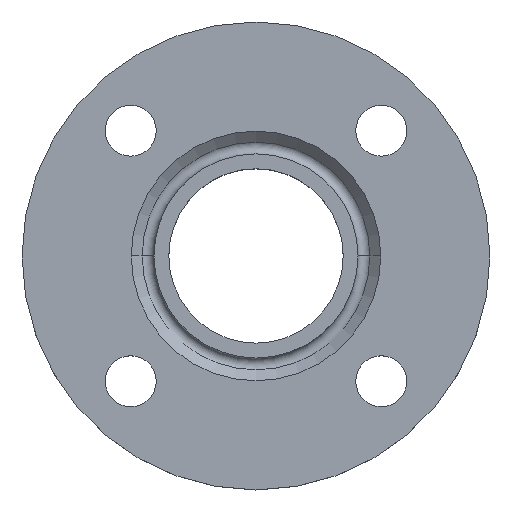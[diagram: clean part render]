
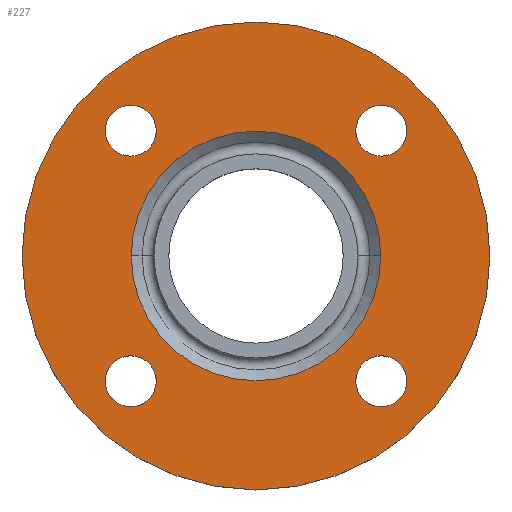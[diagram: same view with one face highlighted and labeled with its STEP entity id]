
A CAD part, top view. The second image highlights one B-rep face of the part: STEP entity #227.
In plain terms, the highlighted planar face has unit normal (0, 0, 1).
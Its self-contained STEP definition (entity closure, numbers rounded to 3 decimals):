
#6 = EDGE_CURVE ( 'NONE', #449, #467, #570, .T. ) ;
#11 = DIRECTION ( 'NONE',  ( 1., 0., 0. ) ) ;
#12 = DIRECTION ( 'NONE',  ( 0., 0., -1. ) ) ;
#13 = CARTESIAN_POINT ( 'NONE',  ( 44.194, 44.194, -2. ) ) ;
#32 = DIRECTION ( 'NONE',  ( 0., 0., -1. ) ) ;
#41 = EDGE_CURVE ( 'NONE', #459, #660, #385, .T. ) ;
#42 = AXIS2_PLACEMENT_3D ( 'NONE', #13, #12, #11 ) ;
#46 = CIRCLE ( 'NONE', #42, 9. ) ;
#67 = CARTESIAN_POINT ( 'NONE',  ( 0., 0., -2. ) ) ;
#72 = EDGE_CURVE ( 'NONE', #491, #461, #373, .T. ) ;
#92 = CARTESIAN_POINT ( 'NONE',  ( -53.194, -44.194, -2. ) ) ;
#93 = CARTESIAN_POINT ( 'NONE',  ( 53.194, 44.194, -2. ) ) ;
#95 = CARTESIAN_POINT ( 'NONE',  ( 35.194, -44.194, -2. ) ) ;
#97 = CARTESIAN_POINT ( 'NONE',  ( 44.194, -44.194, -2. ) ) ;
#102 = CARTESIAN_POINT ( 'NONE',  ( -82.5, 0., -2. ) ) ;
#109 = CARTESIAN_POINT ( 'NONE',  ( 82.5, 0., -2. ) ) ;
#116 = DIRECTION ( 'NONE',  ( 0., 0., -1. ) ) ;
#147 = CARTESIAN_POINT ( 'NONE',  ( 44., 0., -2. ) ) ;
#153 = DIRECTION ( 'NONE',  ( 1., 0., 0. ) ) ;
#170 = CARTESIAN_POINT ( 'NONE',  ( 53.194, -44.194, -2. ) ) ;
#173 = CIRCLE ( 'NONE', #221, 9. ) ;
#175 = CARTESIAN_POINT ( 'NONE',  ( 44.194, -44.194, -2. ) ) ;
#181 = AXIS2_PLACEMENT_3D ( 'NONE', #67, #32, #202 ) ;
#183 = DIRECTION ( 'NONE',  ( 1., 0., 0. ) ) ;
#202 = DIRECTION ( 'NONE',  ( -1., 0., 0. ) ) ;
#218 = CARTESIAN_POINT ( 'NONE',  ( -35.194, -44.194, -2. ) ) ;
#221 = AXIS2_PLACEMENT_3D ( 'NONE', #367, #116, #239 ) ;
#227 = ADVANCED_FACE ( 'NONE', ( #789, #790, #791, #792, #793, #794 ), #795, .T. ) ;
#239 = DIRECTION ( 'NONE',  ( 1., 0., 0. ) ) ;
#253 = AXIS2_PLACEMENT_3D ( 'NONE', #301, #302, #303 ) ;
#282 = CIRCLE ( 'NONE', #287, 9. ) ;
#284 = EDGE_CURVE ( 'NONE', #467, #449, #173, .T. ) ;
#287 = AXIS2_PLACEMENT_3D ( 'NONE', #304, #305, #307 ) ;
#301 = CARTESIAN_POINT ( 'NONE',  ( 0., 0., -2. ) ) ;
#302 = DIRECTION ( 'NONE',  ( 0., 0., -1. ) ) ;
#303 = DIRECTION ( 'NONE',  ( -1., 0., 0. ) ) ;
#304 = CARTESIAN_POINT ( 'NONE',  ( -44.194, -44.194, -2. ) ) ;
#305 = DIRECTION ( 'NONE',  ( 0., 0., -1. ) ) ;
#307 = DIRECTION ( 'NONE',  ( 1., 0., 0. ) ) ;
#310 = CARTESIAN_POINT ( 'NONE',  ( -44.194, -44.194, -2. ) ) ;
#315 = DIRECTION ( 'NONE',  ( 0., 0., -1. ) ) ;
#316 = DIRECTION ( 'NONE',  ( 1., 0., 0. ) ) ;
#317 = CARTESIAN_POINT ( 'NONE',  ( 0., 0., -2. ) ) ;
#318 = DIRECTION ( 'NONE',  ( 0., 0., -1. ) ) ;
#319 = DIRECTION ( 'NONE',  ( -1., 0., 0. ) ) ;
#326 = DIRECTION ( 'NONE',  ( 0., 0., -1. ) ) ;
#336 = AXIS2_PLACEMENT_3D ( 'NONE', #722, #723, #724 ) ;
#341 = CARTESIAN_POINT ( 'NONE',  ( -35.194, 44.194, -2. ) ) ;
#357 = DIRECTION ( 'NONE',  ( 0., 0., -1. ) ) ;
#361 = CARTESIAN_POINT ( 'NONE',  ( -53.194, 44.194, -2. ) ) ;
#362 = CARTESIAN_POINT ( 'NONE',  ( 35.194, 44.194, -2. ) ) ;
#364 = CARTESIAN_POINT ( 'NONE',  ( -44., 0., -2. ) ) ;
#367 = CARTESIAN_POINT ( 'NONE',  ( -44.194, 44.194, -2. ) ) ;
#369 = CIRCLE ( 'NONE', #495, 9. ) ;
#372 = AXIS2_PLACEMENT_3D ( 'NONE', #796, #797, #798 ) ;
#373 = CIRCLE ( 'NONE', #391, 44. ) ;
#382 = EDGE_CURVE ( 'NONE', #611, #650, #553, .T. ) ;
#383 = EDGE_CURVE ( 'NONE', #661, #462, #282, .T. ) ;
#385 = CIRCLE ( 'NONE', #336, 9. ) ;
#389 = EDGE_CURVE ( 'NONE', #462, #661, #541, .T. ) ;
#391 = AXIS2_PLACEMENT_3D ( 'NONE', #726, #730, #732 ) ;
#392 = EDGE_CURVE ( 'NONE', #461, #491, #527, .T. ) ;
#404 = CIRCLE ( 'NONE', #504, 9. ) ;
#412 = EDGE_CURVE ( 'NONE', #659, #481, #404, .T. ) ;
#425 = EDGE_CURVE ( 'NONE', #650, #611, #427, .T. ) ;
#427 = CIRCLE ( 'NONE', #181, 82.5 ) ;
#445 = EDGE_CURVE ( 'NONE', #481, #659, #369, .T. ) ;
#449 = VERTEX_POINT ( 'NONE', #361 ) ;
#459 = VERTEX_POINT ( 'NONE', #362 ) ;
#460 = AXIS2_PLACEMENT_3D ( 'NONE', #317, #318, #319 ) ;
#461 = VERTEX_POINT ( 'NONE', #364 ) ;
#462 = VERTEX_POINT ( 'NONE', #218 ) ;
#467 = VERTEX_POINT ( 'NONE', #341 ) ;
#481 = VERTEX_POINT ( 'NONE', #170 ) ;
#491 = VERTEX_POINT ( 'NONE', #147 ) ;
#495 = AXIS2_PLACEMENT_3D ( 'NONE', #97, #326, #153 ) ;
#504 = AXIS2_PLACEMENT_3D ( 'NONE', #175, #357, #183 ) ;
#527 = CIRCLE ( 'NONE', #460, 44. ) ;
#533 = AXIS2_PLACEMENT_3D ( 'NONE', #310, #315, #316 ) ;
#541 = CIRCLE ( 'NONE', #533, 9. ) ;
#551 = ORIENTED_EDGE ( 'NONE', *, *, #445, .T. ) ;
#552 = ORIENTED_EDGE ( 'NONE', *, *, #412, .T. ) ;
#553 = CIRCLE ( 'NONE', #253, 82.5 ) ;
#554 = ORIENTED_EDGE ( 'NONE', *, *, #389, .T. ) ;
#555 = ORIENTED_EDGE ( 'NONE', *, *, #383, .T. ) ;
#556 = ORIENTED_EDGE ( 'NONE', *, *, #284, .T. ) ;
#557 = ORIENTED_EDGE ( 'NONE', *, *, #6, .T. ) ;
#558 = ORIENTED_EDGE ( 'NONE', *, *, #821, .T. ) ;
#559 = ORIENTED_EDGE ( 'NONE', *, *, #41, .T. ) ;
#560 = ORIENTED_EDGE ( 'NONE', *, *, #72, .T. ) ;
#561 = ORIENTED_EDGE ( 'NONE', *, *, #392, .T. ) ;
#562 = ORIENTED_EDGE ( 'NONE', *, *, #382, .F. ) ;
#565 = ORIENTED_EDGE ( 'NONE', *, *, #425, .F. ) ;
#566 = AXIS2_PLACEMENT_3D ( 'NONE', #702, #703, #704 ) ;
#570 = CIRCLE ( 'NONE', #566, 9. ) ;
#611 = VERTEX_POINT ( 'NONE', #109 ) ;
#650 = VERTEX_POINT ( 'NONE', #102 ) ;
#659 = VERTEX_POINT ( 'NONE', #95 ) ;
#660 = VERTEX_POINT ( 'NONE', #93 ) ;
#661 = VERTEX_POINT ( 'NONE', #92 ) ;
#671 = EDGE_LOOP ( 'NONE', ( #560, #561 ) ) ;
#674 = EDGE_LOOP ( 'NONE', ( #562, #565 ) ) ;
#677 = EDGE_LOOP ( 'NONE', ( #558, #559 ) ) ;
#679 = EDGE_LOOP ( 'NONE', ( #556, #557 ) ) ;
#683 = EDGE_LOOP ( 'NONE', ( #551, #552 ) ) ;
#697 = EDGE_LOOP ( 'NONE', ( #554, #555 ) ) ;
#702 = CARTESIAN_POINT ( 'NONE',  ( -44.194, 44.194, -2. ) ) ;
#703 = DIRECTION ( 'NONE',  ( 0., 0., -1. ) ) ;
#704 = DIRECTION ( 'NONE',  ( 1., 0., 0. ) ) ;
#722 = CARTESIAN_POINT ( 'NONE',  ( 44.194, 44.194, -2. ) ) ;
#723 = DIRECTION ( 'NONE',  ( 0., 0., -1. ) ) ;
#724 = DIRECTION ( 'NONE',  ( 1., 0., 0. ) ) ;
#726 = CARTESIAN_POINT ( 'NONE',  ( 0., 0., -2. ) ) ;
#730 = DIRECTION ( 'NONE',  ( 0., 0., -1. ) ) ;
#732 = DIRECTION ( 'NONE',  ( -1., 0., 0. ) ) ;
#789 = FACE_BOUND ( 'NONE', #683, .T. ) ;
#790 = FACE_BOUND ( 'NONE', #697, .T. ) ;
#791 = FACE_BOUND ( 'NONE', #679, .T. ) ;
#792 = FACE_BOUND ( 'NONE', #677, .T. ) ;
#793 = FACE_BOUND ( 'NONE', #671, .T. ) ;
#794 = FACE_OUTER_BOUND ( 'NONE', #674, .T. ) ;
#795 = PLANE ( 'NONE',  #372 ) ;
#796 = CARTESIAN_POINT ( 'NONE',  ( 82.5, 0., -2. ) ) ;
#797 = DIRECTION ( 'NONE',  ( 0., 0., 1. ) ) ;
#798 = DIRECTION ( 'NONE',  ( 1., 0., 0. ) ) ;
#821 = EDGE_CURVE ( 'NONE', #660, #459, #46, .T. ) ;
